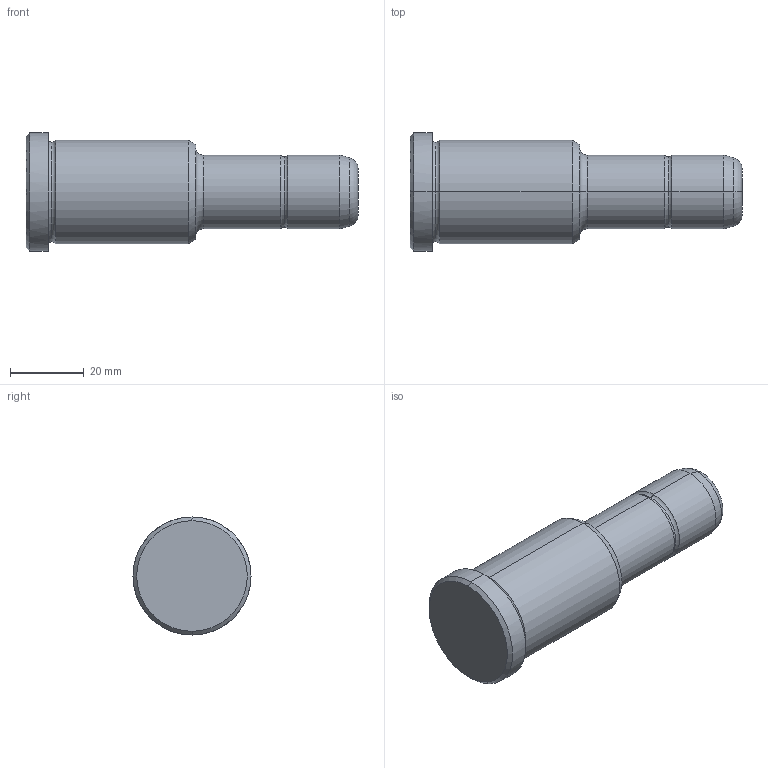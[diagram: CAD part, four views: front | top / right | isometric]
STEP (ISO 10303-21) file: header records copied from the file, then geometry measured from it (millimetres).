
FILE_DESCRIPTION(('CATIA V5 STEP Exchange'),'2;1');
FILE_NAME('C:\Users\Utente\Desktop\IO LAVORO\3D X SITO CF\X SITO\PLASTICA\351\351-20X46X90.stp','2021-08-27T12:58:14+00:00',('none'),('none'),'CATIA Version 5 Release 20 GA (IN-10)','CATIA V5 STEP AP203','none');
FILE_SCHEMA(('CONFIG_CONTROL_DESIGN'));
Length unit declared in the file: millimetre
Products named in the file (1): 351-20X46X90
Bounding box: 90 x 32 x 32 mm (x, y, z)
Volume: 42829.4 mm3; surface area: 8213.8 mm2
Topology: 1 solids, 1 shells, 30 faces, 86 edges, 60 vertices
Faces by surface type: torus 12, cylinder 8, cone 6, plane 4
Entity records: 1112 total; most frequent: CARTESIAN_POINT 289, ORIENTED_EDGE 172, DIRECTION 138, AXIS2_PLACEMENT_3D 95, EDGE_CURVE 86, CIRCLE 64, VERTEX_POINT 60, EDGE_LOOP 32
